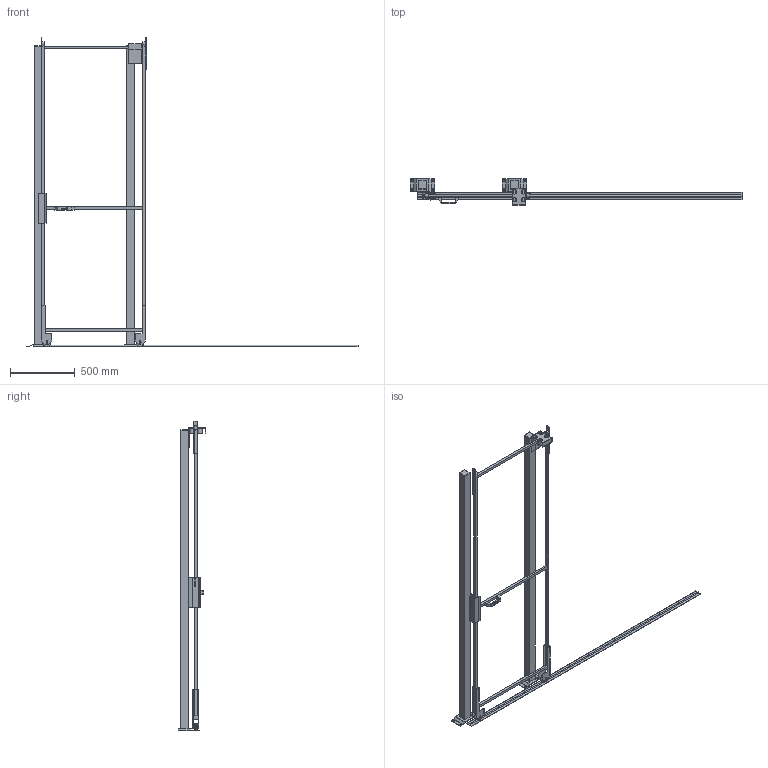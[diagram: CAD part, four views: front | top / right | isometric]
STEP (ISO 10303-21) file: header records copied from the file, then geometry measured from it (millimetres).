
FILE_DESCRIPTION(/* description */ (''),/* implementation_level */ '2;1');
FILE_NAME(/* name */ 'C:\SafeGuarding\ELABORATI\Drawing5_2025-05-05-13-06-22.stp',/* time_stamp */ '2025-05-05T13:06:28+02:00',/* author */ ('admin'),/* organization */ (''),/* preprocessor_version */ 'ST-DEVELOPER v18.1',/* originating_system */ 'AutoCAD Mechanical',/* authorisation */ '');
FILE_SCHEMA (('AUTOMOTIVE_DESIGN { 1 0 10303 214 3 1 1 }'));
Length unit declared in the file: millimetre
Products named in the file (3): Product; R_VFPA.REPE20.08002200; P_VFMA.V260SDU.2320
Assembly tree (3 placements, depth 2):
  Product
    R_VFPA.REPE20.08002200
    P_VFMA.V260SDU.2320  x2
Bounding box: 2561 x 210 x 2390 mm (x, y, z)
Volume: 21616482.1 mm3; surface area: 2813844.1 mm2
Topology: 33 solids, 44 shells, 337 faces, 1044 edges, 977 vertices
Faces by surface type: plane 291, cylinder 40, cone 4, sphere 2
Full cylindrical faces by diameter (mm): 9 x4, 11 x8, 13 x4, 18 x4, 30 x2, 36 x4, 58 x4
Entity records: 10833 total; most frequent: CARTESIAN_POINT 2306, DIRECTION 1656, ORIENTED_EDGE 1526, EDGE_CURVE 812, LINE 726, VECTOR 726, VERTEX_POINT 582, AXIS2_PLACEMENT_3D 465
